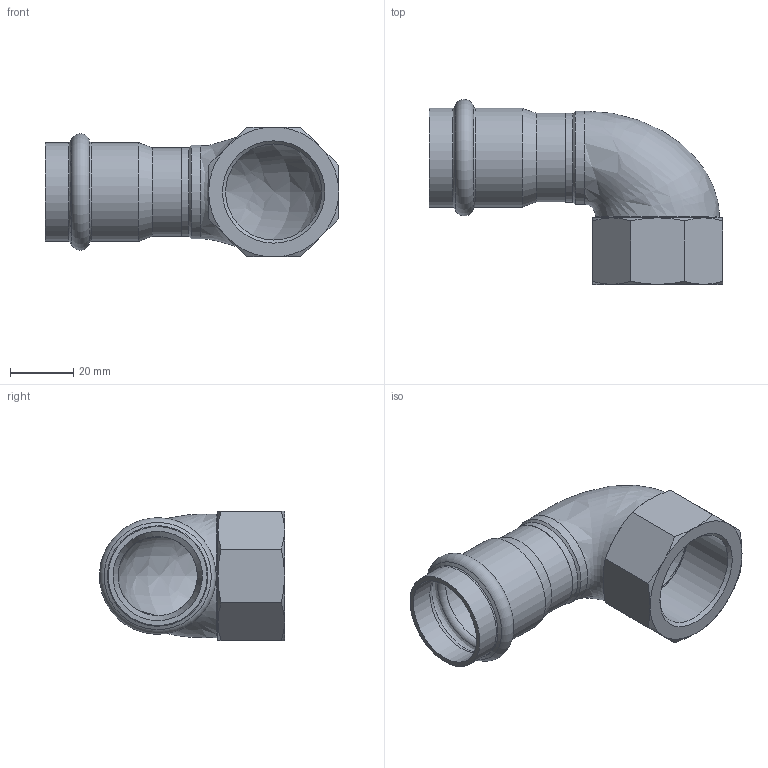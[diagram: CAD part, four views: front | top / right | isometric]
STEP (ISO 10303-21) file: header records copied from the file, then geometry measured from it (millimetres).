
FILE_DESCRIPTION((''),'2;1');
FILE_NAME('G:\Nirosan-Schmiedefeld\Technics\CAD\001 Serie 9.000\028\69090IG281(3).stp','2018-09-11T15:54:11',('herberg'),(''),'Autodesk Inventor 2009','Autodesk Inventor 2009','');
FILE_SCHEMA(('AUTOMOTIVE_DESIGN { 1 0 10303 214 1 1 1 1 }'));
Length unit declared in the file: millimetre
Products named in the file (3): 69090IG281(3); G_69090IG281(0); 6924328HM(1)
Assembly tree (2 placements, depth 2):
  69090IG281(3)
    G_69090IG281(0)
    6924328HM(1)
Bounding box: 92.5 x 58.37 x 41 mm (x, y, z)
Volume: 28324.7 mm3; surface area: 22463.2 mm2
Topology: 2 solids, 2 shells, 56 faces, 125 edges, 75 vertices
Faces by surface type: cone 22, plane 13, bspline 9, cylinder 9, torus 3
Full cylindrical faces by diameter (mm): 25 x2, 28 x2, 28.2 x2, 29.4 x1, 31.2 x2
Entity records: 2681 total; most frequent: CARTESIAN_POINT 1544, DIRECTION 224, ORIENTED_EDGE 202, AXIS2_PLACEMENT_3D 108, EDGE_CURVE 101, EDGE_LOOP 85, VERTEX_POINT 74, CIRCLE 56
